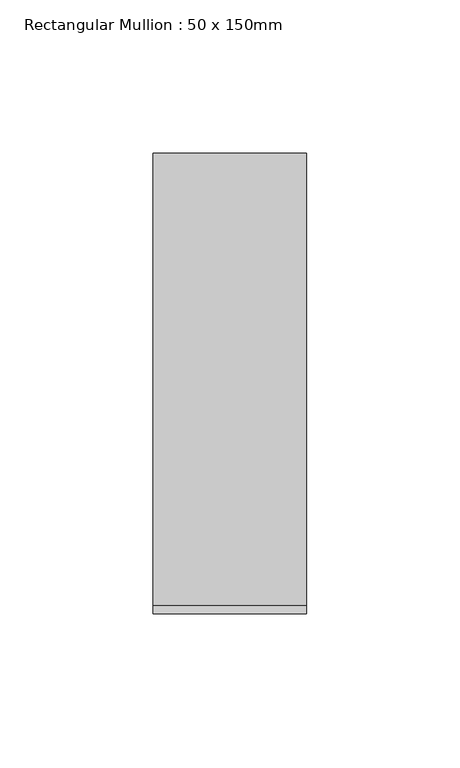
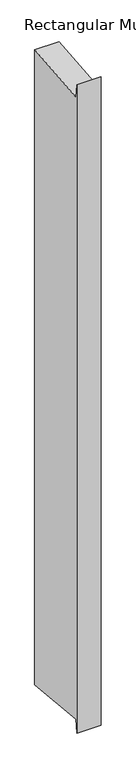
"""IFC4 building model written with IfcOpenShell, lengths in millimetres: member geometry, Rectangular Mullion : 50 x 150mm."""

import ifcopenshell
import ifcopenshell.guid

model = None  # the IFC model being written
_history = None  # IfcOwnerHistory: only IFC2X3 demands one
_inside = {}  # id of a spatial element -> (the spatial element, [elements in it])
_under = {}  # id of a project, library or spatial element -> (it, [spatial elements below it])
_declared = {}  # id of a project -> (the project, [libraries it declares])
_typed = {}  # id of a type object -> (the type object, [elements of that type])
_made_of = {}  # id of a material, layer set ... -> (it, [elements and type objects made of it])


def new_model(schema):
    """Start an empty IFC model of exactly this schema.

    Asked for "IFC4X3", IfcOpenShell would pick the latest addendum, in which some entities
    have other attributes; the version numbers below select the first issue.
    IFC2X3 requires an IfcOwnerHistory on every rooted entity: one is made here for all.
    """
    global model, _history
    if schema == "IFC4X3":
        model = ifcopenshell.file(schema_version=(4, 3, 0, 0))
    else:
        model = ifcopenshell.file(schema=schema)
    _inside.clear()
    _under.clear()
    _declared.clear()
    _typed.clear()
    _made_of.clear()
    _history = None
    if model.schema == "IFC2X3":
        org = make("IfcOrganization", Name="unknown")
        user = make(
            "IfcPersonAndOrganization",
            ThePerson=make("IfcPerson", FamilyName="unknown"),
            TheOrganization=org,
        )
        app = make(
            "IfcApplication",
            ApplicationDeveloper=org,
            Version="unknown",
            ApplicationFullName="unknown",
            ApplicationIdentifier="unknown",
        )
        _history = make(
            "IfcOwnerHistory",
            OwningUser=user,
            OwningApplication=app,
            ChangeAction="ADDED",
            CreationDate=0,
        )
    return model


def make(cls, **values):
    """One entity of the class cls with the attributes given. An attribute that is None is left unset."""
    return model.create_entity(
        cls, **{name: value for name, value in values.items() if value is not None}
    )


def rooted(cls, **values):
    """An entity with a GlobalId (a new one), such as an element, a storey or a relation."""
    return make(cls, GlobalId=ifcopenshell.guid.new(), OwnerHistory=_history, **values)


def si_unit(unit_type, name, prefix=None):
    """IfcSIUnit, for example si_unit("LENGTHUNIT", "METRE", prefix="MILLI")."""
    return make("IfcSIUnit", UnitType=unit_type, Prefix=prefix, Name=name)


def assignment(units):
    """IfcUnitAssignment: the units of a project."""
    return None if units is None else make("IfcUnitAssignment", Units=units)


def point(xyz):
    """IfcCartesianPoint."""
    return None if xyz is None else make("IfcCartesianPoint", Coordinates=xyz)


def direction(xyz):
    """IfcDirection."""
    return None if xyz is None else make("IfcDirection", DirectionRatios=xyz)


def frame(location, z_axis=None, x_axis=None):
    """IfcAxis2Placement3D, a coordinate frame: its origin and axes. An axis left out is left unset."""
    return make(
        "IfcAxis2Placement3D",
        Location=point(location),
        Axis=direction(z_axis),
        RefDirection=direction(x_axis),
    )


def origin():
    """The frame at (0, 0, 0) with its axes left unset."""
    return frame((0.0, 0.0, 0.0))


def place(relative_to, where):
    """IfcLocalPlacement: puts the frame where relative to a parent placement (None: the world)."""
    return make(
        "IfcLocalPlacement", PlacementRelTo=relative_to, RelativePlacement=where
    )


def context(
    kind, dimensions, precision=None, world=None, true_north=None, identifier=None
):
    """IfcGeometricRepresentationContext, for example the 3D "Model" context."""
    return make(
        "IfcGeometricRepresentationContext",
        ContextIdentifier=identifier,
        ContextType=kind,
        CoordinateSpaceDimension=dimensions,
        Precision=precision,
        WorldCoordinateSystem=world,
        TrueNorth=true_north,
    )


def project(units=None, contexts=None):
    """IfcProject with its units and contexts."""
    return rooted(
        "IfcProject",
        Name="project",
        RepresentationContexts=contexts,
        UnitsInContext=assignment(units),
    )


def spatial(cls, under=None, at=None, **own):
    """A site, building, storey or space (cls), placed at a placement, below another one or the project."""
    s = rooted(cls, ObjectPlacement=at, **own)
    if under is not None:
        _under.setdefault(under.id(), (under, []))[1].append(s)
    return s


def faces_of(points, faces, orient=None, outer=None):
    """IfcFace entities. A face is a list of loops; a loop is a list of indices into points, from 0.

    orient and outer hold one flag for each loop. By default every Orientation is true, the
    first loop of a face is its IfcFaceOuterBound and the others are IfcFaceBound.
    """
    made = []
    for i, loops in enumerate(faces):
        bounds = []
        for j, loop in enumerate(loops):
            is_outer = j == 0 if outer is None else outer[i][j]
            bounds.append(
                make(
                    "IfcFaceOuterBound" if is_outer else "IfcFaceBound",
                    Bound=make("IfcPolyLoop", Polygon=[points[k] for k in loop]),
                    Orientation=True if orient is None else orient[i][j],
                )
            )
        made.append(make("IfcFace", Bounds=bounds))
    return made


def faceted_brep(points, faces, orient=None, outer=None, voids=None):
    """IfcFacetedBrep: a solid bounded by flat faces; with voids (closed shells), ...WithVoids."""
    shared = [point(p) for p in points]
    hull = make("IfcClosedShell", CfsFaces=faces_of(shared, faces, orient, outer))
    if voids is None:
        return make("IfcFacetedBrep", Outer=hull)
    return make(
        "IfcFacetedBrepWithVoids",
        Outer=hull,
        Voids=[
            make(cls, CfsFaces=faces_of(shared, fs, o, b)) for cls, fs, o, b in voids
        ],
    )


def shape(context_of_items, identifier, shape_type, items):
    """IfcShapeRepresentation: the items that make up one representation, for example the "Body"."""
    return make(
        "IfcShapeRepresentation",
        ContextOfItems=context_of_items,
        RepresentationIdentifier=identifier,
        RepresentationType=shape_type,
        Items=items,
    )


def source(mapping_origin, context_of_items, identifier, shape_type, items):
    """IfcRepresentationMap: a shape defined once, which mapped items show again and again."""
    return make(
        "IfcRepresentationMap",
        MappingOrigin=mapping_origin,
        MappedRepresentation=shape(context_of_items, identifier, shape_type, items),
    )


def transform(
    local_origin,
    x_axis=None,
    y_axis=None,
    z_axis=None,
    scale=None,
    scale2=None,
    scale3=None,
    uniform=True,
):
    """IfcCartesianTransformationOperator3D, or its non-uniform kind. x_axis, y_axis, z_axis: its Axis1, 2, 3."""
    if uniform:
        return make(
            "IfcCartesianTransformationOperator3D",
            Axis1=direction(x_axis),
            Axis2=direction(y_axis),
            LocalOrigin=point(local_origin),
            Scale=scale,
            Axis3=direction(z_axis),
        )
    return make(
        "IfcCartesianTransformationOperator3DnonUniform",
        Axis1=direction(x_axis),
        Axis2=direction(y_axis),
        LocalOrigin=point(local_origin),
        Scale=scale,
        Axis3=direction(z_axis),
        Scale2=scale2,
        Scale3=scale3,
    )


def mapped(mapping_source, mapping_target):
    """IfcMappedItem: shows the shape of a source again, moved by a transform."""
    return make(
        "IfcMappedItem", MappingSource=mapping_source, MappingTarget=mapping_target
    )


def made_of(thing, what):
    """Note that an element or type object is made of a material, layer set ...; save() writes the relation."""
    if what is not None:
        _made_of.setdefault(what.id(), (what, []))[1].append(thing)
    return thing


def element(
    cls,
    number,
    at=None,
    inside=None,
    cuts=None,
    type_object=None,
    material=None,
    context=None,
    identifier="Body",
    shape_type=None,
    held_by="IfcProductDefinitionShape",
    body=None,
    shapes=None,
    **own,
):
    """One element of the class cls, such as IfcWall. Its Tag is "e" and its number.

    at: its placement. inside: the storey or other place that contains it. cuts: it is an
    opening in that element (IfcRelVoidsElement). A single representation is given by context,
    identifier, shape_type and body (its items); several are given by shapes. held_by: the class
    of the entity that holds the representations. save() writes the other relations.
    """
    e = rooted(cls, Tag="e%d" % number, ObjectPlacement=at, **own)
    if body is not None:
        shapes = [shape(context, identifier, shape_type, body)]
    if shapes is not None:
        e.Representation = make(held_by, Representations=shapes)
    if inside is not None:
        _inside.setdefault(inside.id(), (inside, []))[1].append(e)
    if cuts is not None:
        rooted(
            "IfcRelVoidsElement", RelatingBuildingElement=cuts, RelatedOpeningElement=e
        )
    if type_object is not None:
        _typed.setdefault(type_object.id(), (type_object, []))[1].append(e)
    return made_of(e, material)


def aggregate(whole, parts):
    """IfcRelAggregates: a whole, such as a stair, and the parts it consists of."""
    return rooted("IfcRelAggregates", RelatingObject=whole, RelatedObjects=parts)


def save(model, path):
    """Write the relations noted so far, then the file.

    IfcRelAggregates (storeys below a building ...), IfcRelContainedInSpatialStructure (elements
    in a storey), IfcRelDefinesByType, IfcRelAssociatesMaterial and IfcRelDeclares: one each for
    every whole, place, type object, material and project.
    """
    for whole, parts in _under.values():
        aggregate(whole, parts)
    for where, things in _inside.values():
        rooted(
            "IfcRelContainedInSpatialStructure",
            RelatedElements=things,
            RelatingStructure=where,
        )
    for kind, things in _typed.values():
        rooted("IfcRelDefinesByType", RelatedObjects=things, RelatingType=kind)
    for what, things in _made_of.values():
        rooted("IfcRelAssociatesMaterial", RelatedObjects=things, RelatingMaterial=what)
    for by, libraries in _declared.values():
        rooted("IfcRelDeclares", RelatingContext=by, RelatedDefinitions=libraries)
    model.write(path)


def rectangular_mullion_50_x_150mm_98b0dc6e(model_context):
    return source(origin(), model_context, "Body", "Brep", [
        faceted_brep([(-25.0, 75.0, 7.003801), (25.0, 75.0, 7.003801), (25.0, 75.0, -1373.1006994), (0.0, 75.0, -1373.1006994), (-25.0, 75.0, -1373.1006994), (-25.0, -75.0, 21.4499324), (-25.0, -72.3032509, -6.9724867), (-25.0, -72.3032509, -1359.1244117), (-25.0, -75.0, -1387.5468307), (25.0, -75.0, 21.4499324), (0.0, -75.0, -1387.5468307), (25.0, -75.0, -1387.5468307), (25.0, -72.3032509, -6.9724867), (25.0, -72.3032509, -1359.1244117), (0.0, -72.3032509, -1359.1244117)], [[[0, 1, 2, 3, 4]], [[5, 6, 0, 4, 7, 8]], [[9, 5, 8, 10, 11]], [[1, 12, 9, 11, 13, 2]], [[1, 0, 6, 12]], [[6, 5, 9, 12]], [[2, 13, 14, 3]], [[13, 11, 10, 14]], [[10, 8, 7, 14]], [[7, 4, 3, 14]]]),
    ])


if __name__ == "__main__":
    model = new_model("IFC4")
    model_context = context("Model", 3, world=origin())
    ifc_project = project(units=[si_unit("LENGTHUNIT", "METRE", prefix="MILLI")], contexts=[model_context])
    site = spatial("IfcSite", under=ifc_project)
    building = spatial("IfcBuilding", under=site)
    placement = place(None, origin())
    rectangular_mullion_50_x_150mm_shape = rectangular_mullion_50_x_150mm_98b0dc6e(model_context)
    element("IfcMember", 1, ObjectType="Rectangular Mullion : 50 x 150mm", at=placement, inside=building, context=model_context, shape_type="MappedRepresentation", body=[
        mapped(rectangular_mullion_50_x_150mm_shape, transform((0.0, 0.0, 0.0), x_axis=(1.0, 0.0, 0.0), y_axis=(0.0, 1.0, 0.0), z_axis=(0.0, 0.0, 1.0))),
    ])
    save(model, "model.ifc")
